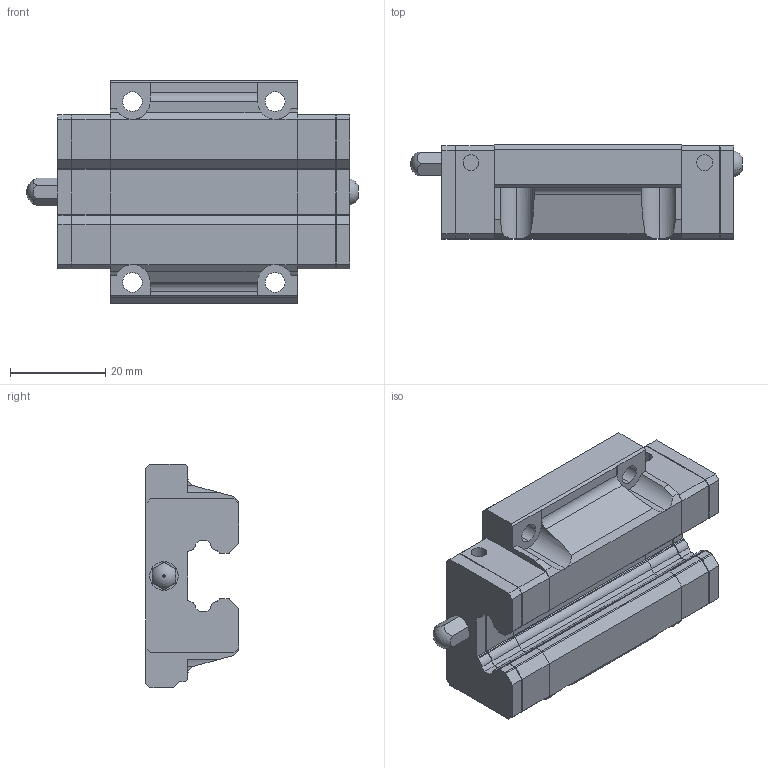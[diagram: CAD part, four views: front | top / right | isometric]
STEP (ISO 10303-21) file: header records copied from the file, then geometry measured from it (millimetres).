
FILE_DESCRIPTION (( 'STEP AP203' ), '1' );
FILE_NAME ('SGW15CA.STEP', '2025-06-27T05:46:07', ( 'Owner' ), ( 'Organization' ), 'SwSTEP 2.0', 'SolidWorks 2020', '' );
FILE_SCHEMA (( 'CONFIG_CONTROL_DESIGN' ));
Length unit declared in the file: millimetre
Products named in the file (1): SGW15CA
Bounding box: 69.76 x 19.7 x 47 mm (x, y, z)
Volume: 35799.8 mm3; surface area: 15203.5 mm2
Topology: 7 solids, 7 shells, 399 faces, 1059 edges, 686 vertices
Faces by surface type: plane 259, cylinder 112, cone 24, sphere 2, torus 2
Entity records: 12494 total; most frequent: CARTESIAN_POINT 2445, ORIENTED_EDGE 2110, DIRECTION 2035, EDGE_CURVE 1055, VECTOR 751, LINE 751, VERTEX_POINT 684, AXIS2_PLACEMENT_3D 642
